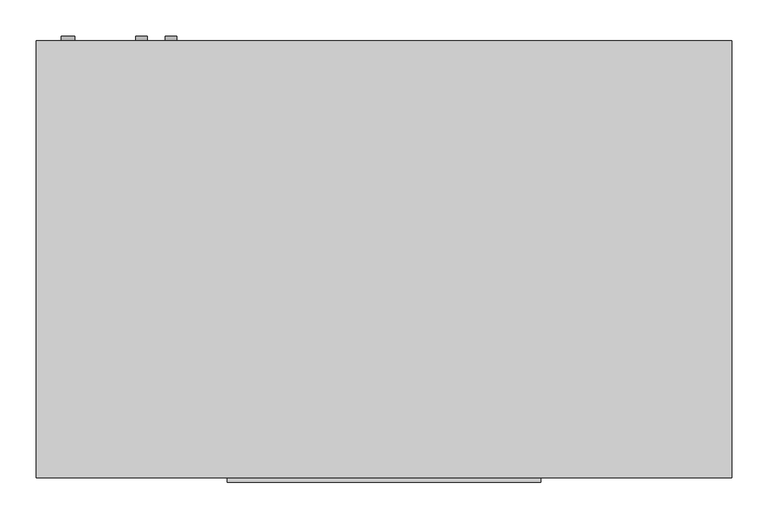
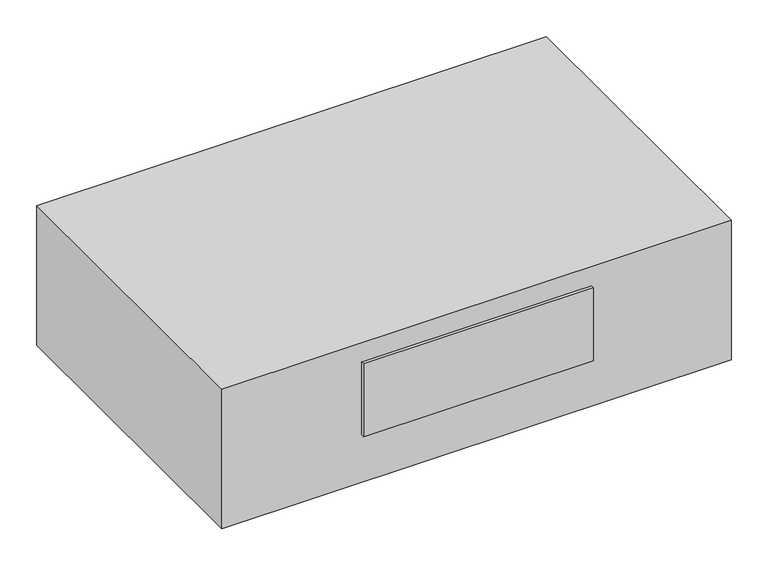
"""IFC4 building model written with IfcOpenShell, lengths in millimetres: proxy geometry, Exposed_Horizontal_Fan_Coil_Unit_-_42CGB_-_CARRIER_-_2-Pipe_Cool-EHeat_FS-BR_LH_2022 : Size 02 - 277v/60Hz/1Ph - 4 Row 2.0kW."""

from ifc_helpers import new_model, si_unit, point, frame, frame_2d, origin, place, context, project, spatial, polyline, circle_curve, trimmed, segment, composite_curve, outline, extrude, source, transform, mapped, element, save


def mechanical_equipment_698a5b52(model_context):
    return source(origin(), model_context, "Body", "SweptSolid", [
        extrude(outline(composite_curve([segment(trimmed(circle_curve(frame_2d((-60.325, -142.875)), 7.9375), [point((-60.325, -134.9375))], [point((-60.325, -150.8125))], False, "CARTESIAN"), True, "CONTINUOUS"), segment(trimmed(circle_curve(frame_2d((-60.325, -142.875)), 7.9375), [point((-60.325, -150.8125))], [point((-60.325, -134.9375))], False, "CARTESIAN"), True, "CONTINUOUS")], self_intersect=False)), frame((0.0, 65.0875, 0.0), z_axis=(0.0, 1.0, 0.0), x_axis=(0.0, 0.0, 1.0)), (0.0, 0.0, 1.0), 6.35),
        extrude(outline(composite_curve([segment(trimmed(circle_curve(frame_2d((-95.25, -184.15)), 7.9375), [point((-95.25, -176.2125))], [point((-95.25, -192.0875))], False, "CARTESIAN"), True, "CONTINUOUS"), segment(trimmed(circle_curve(frame_2d((-95.25, -184.15)), 7.9375), [point((-95.25, -192.0875))], [point((-95.25, -176.2125))], False, "CARTESIAN"), True, "CONTINUOUS")], self_intersect=False)), frame((0.0, 65.0875, 0.0), z_axis=(0.0, 1.0, 0.0), x_axis=(0.0, 0.0, 1.0)), (0.0, 0.0, 1.0), 6.35),
        extrude(outline(composite_curve([segment(trimmed(circle_curve(frame_2d((-260.35, -285.75)), 9.525), [point((-260.35, -276.225))], [point((-260.35, -295.275))], False, "CARTESIAN"), True, "CONTINUOUS"), segment(trimmed(circle_curve(frame_2d((-260.35, -285.75)), 9.525), [point((-260.35, -295.275))], [point((-260.35, -276.225))], False, "CARTESIAN"), True, "CONTINUOUS")], self_intersect=False)), frame((0.0, 65.0875, 0.0), z_axis=(0.0, 1.0, 0.0), x_axis=(0.0, 0.0, 1.0)), (0.0, 0.0, 1.0), 6.35),
        extrude(outline(polyline([(-330.2, 65.0875), (635.0, 65.0875), (635.0, -541.3375), (-330.2, -541.3375), (-330.2, 65.0875)])), frame((0.0, 0.0, -279.4), z_axis=(0.0, 0.0, 1.0), x_axis=(1.0, 0.0, 0.0)), (0.0, 0.0, 1.0), 279.4),
        extrude(outline(polyline([(369.8875, -547.6875), (-65.0875, -547.6875), (-65.0875, -541.3375), (369.8875, -541.3375), (369.8875, -547.6875)])), frame((0.0, 0.0, -184.15), z_axis=(0.0, 0.0, 1.0), x_axis=(1.0, 0.0, 0.0)), (0.0, 0.0, 1.0), 146.05),
        extrude(outline(polyline([(450.85, -11.1125), (450.85, -265.1125), (-146.05, -265.1125), (-146.05, -11.1125), (450.85, -11.1125)])), frame((0.0, 0.0, -285.75), z_axis=(0.0, 0.0, 1.0), x_axis=(1.0, 0.0, 0.0)), (0.0, 0.0, 1.0), 6.35),
    ])


if __name__ == "__main__":
    model = new_model("IFC4")
    model_context = context("Model", 3, world=origin())
    ifc_project = project(units=[si_unit("LENGTHUNIT", "METRE", prefix="MILLI")], contexts=[model_context])
    site = spatial("IfcSite", under=ifc_project)
    building = spatial("IfcBuilding", under=site)
    placement = place(None, origin())
    mechanical_equipment_shape = mechanical_equipment_698a5b52(model_context)
    element("IfcBuildingElementProxy", 1, Name="Exposed_Horizontal_Fan_Coil_Unit_-_42CGB_-_CARRIER_-_2-Pipe_Cool-EHeat_FS-BR_LH_2022 : Size 02 - 277v/60Hz/1Ph - 4 Row 2.0kW", ObjectType="Exposed_Horizontal_Fan_Coil_Unit_-_42CGB_-_CARRIER_-_2-Pipe_Cool-EHeat_FS-BR_LH_2022 : Size 02 - 277v/60Hz/1Ph - 4 Row 2.0kW", at=placement, inside=building, context=model_context, shape_type="MappedRepresentation", body=[
        mapped(mechanical_equipment_shape, transform((0.0, 0.0, 0.0), x_axis=(1.0, 0.0, 0.0), y_axis=(0.0, 1.0, 0.0), z_axis=(0.0, 0.0, 1.0))),
    ])
    save(model, "model.ifc")
